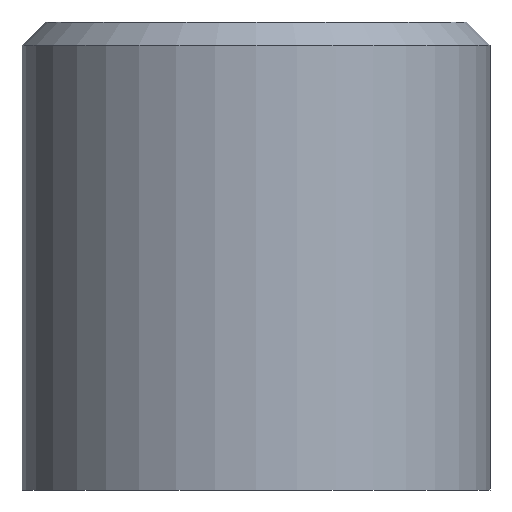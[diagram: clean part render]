
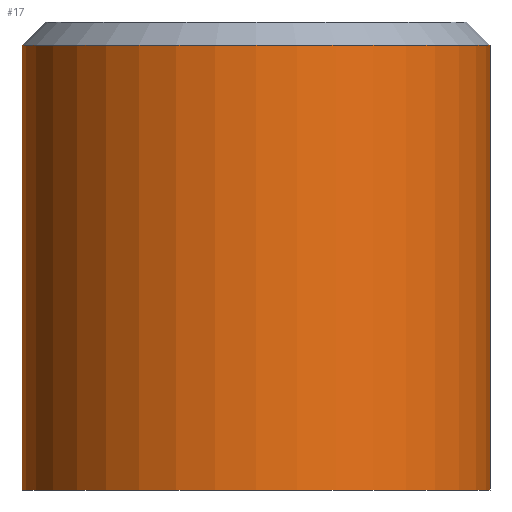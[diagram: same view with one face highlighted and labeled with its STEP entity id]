
A CAD part, front view. The second image highlights one B-rep face of the part: STEP entity #17.
In plain terms, the highlighted cylindrical face has radius 10 mm (diameter 20 mm), a full revolution.
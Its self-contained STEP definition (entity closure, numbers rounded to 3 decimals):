
#17 = ADVANCED_FACE('',(#18),#32,.T.);
#18 = FACE_BOUND('',#19,.F.);
#19 = EDGE_LOOP('',(#20,#50,#77,#78));
#20 = ORIENTED_EDGE('',*,*,#21,.T.);
#21 = EDGE_CURVE('',#22,#24,#26,.T.);
#22 = VERTEX_POINT('',#23);
#23 = CARTESIAN_POINT('',(10.,0.,0.));
#24 = VERTEX_POINT('',#25);
#25 = CARTESIAN_POINT('',(10.,0.,19.));
#26 = SEAM_CURVE('',#27,(#31,#43),.PCURVE_S1.);
#27 = LINE('',#28,#29);
#28 = CARTESIAN_POINT('',(10.,0.,0.));
#29 = VECTOR('',#30,1.);
#30 = DIRECTION('',(0.,0.,1.));
#31 = PCURVE('',#32,#37);
#32 = CYLINDRICAL_SURFACE('',#33,10.);
#33 = AXIS2_PLACEMENT_3D('',#34,#35,#36);
#34 = CARTESIAN_POINT('',(0.,0.,0.));
#35 = DIRECTION('',(-0.,-0.,-1.));
#36 = DIRECTION('',(1.,0.,0.));
#37 = DEFINITIONAL_REPRESENTATION('',(#38),#42);
#38 = LINE('',#39,#40);
#39 = CARTESIAN_POINT('',(-0.,0.));
#40 = VECTOR('',#41,1.);
#41 = DIRECTION('',(-0.,-1.));
#42 = ( GEOMETRIC_REPRESENTATION_CONTEXT(2) 
PARAMETRIC_REPRESENTATION_CONTEXT() REPRESENTATION_CONTEXT('2D SPACE',''
  ) );
#43 = PCURVE('',#32,#44);
#44 = DEFINITIONAL_REPRESENTATION('',(#45),#49);
#45 = LINE('',#46,#47);
#46 = CARTESIAN_POINT('',(-6.283,0.));
#47 = VECTOR('',#48,1.);
#48 = DIRECTION('',(-0.,-1.));
#49 = ( GEOMETRIC_REPRESENTATION_CONTEXT(2) 
PARAMETRIC_REPRESENTATION_CONTEXT() REPRESENTATION_CONTEXT('2D SPACE',''
  ) );
#50 = ORIENTED_EDGE('',*,*,#51,.T.);
#51 = EDGE_CURVE('',#24,#24,#52,.T.);
#52 = SURFACE_CURVE('',#53,(#58,#65),.PCURVE_S1.);
#53 = CIRCLE('',#54,10.);
#54 = AXIS2_PLACEMENT_3D('',#55,#56,#57);
#55 = CARTESIAN_POINT('',(0.,0.,19.));
#56 = DIRECTION('',(0.,0.,1.));
#57 = DIRECTION('',(1.,0.,-0.));
#58 = PCURVE('',#32,#59);
#59 = DEFINITIONAL_REPRESENTATION('',(#60),#64);
#60 = LINE('',#61,#62);
#61 = CARTESIAN_POINT('',(-0.,-19.));
#62 = VECTOR('',#63,1.);
#63 = DIRECTION('',(-1.,0.));
#64 = ( GEOMETRIC_REPRESENTATION_CONTEXT(2) 
PARAMETRIC_REPRESENTATION_CONTEXT() REPRESENTATION_CONTEXT('2D SPACE',''
  ) );
#65 = PCURVE('',#66,#71);
#66 = CONICAL_SURFACE('',#67,10.,0.785);
#67 = AXIS2_PLACEMENT_3D('',#68,#69,#70);
#68 = CARTESIAN_POINT('',(0.,0.,19.));
#69 = DIRECTION('',(-0.,-0.,-1.));
#70 = DIRECTION('',(1.,0.,0.));
#71 = DEFINITIONAL_REPRESENTATION('',(#72),#76);
#72 = LINE('',#73,#74);
#73 = CARTESIAN_POINT('',(-0.,-0.));
#74 = VECTOR('',#75,1.);
#75 = DIRECTION('',(-1.,-0.));
#76 = ( GEOMETRIC_REPRESENTATION_CONTEXT(2) 
PARAMETRIC_REPRESENTATION_CONTEXT() REPRESENTATION_CONTEXT('2D SPACE',''
  ) );
#77 = ORIENTED_EDGE('',*,*,#21,.F.);
#78 = ORIENTED_EDGE('',*,*,#79,.F.);
#79 = EDGE_CURVE('',#22,#22,#80,.T.);
#80 = SURFACE_CURVE('',#81,(#86,#93),.PCURVE_S1.);
#81 = CIRCLE('',#82,10.);
#82 = AXIS2_PLACEMENT_3D('',#83,#84,#85);
#83 = CARTESIAN_POINT('',(0.,0.,0.));
#84 = DIRECTION('',(0.,0.,1.));
#85 = DIRECTION('',(1.,0.,0.));
#86 = PCURVE('',#32,#87);
#87 = DEFINITIONAL_REPRESENTATION('',(#88),#92);
#88 = LINE('',#89,#90);
#89 = CARTESIAN_POINT('',(-0.,0.));
#90 = VECTOR('',#91,1.);
#91 = DIRECTION('',(-1.,0.));
#92 = ( GEOMETRIC_REPRESENTATION_CONTEXT(2) 
PARAMETRIC_REPRESENTATION_CONTEXT() REPRESENTATION_CONTEXT('2D SPACE',''
  ) );
#93 = PCURVE('',#94,#99);
#94 = PLANE('',#95);
#95 = AXIS2_PLACEMENT_3D('',#96,#97,#98);
#96 = CARTESIAN_POINT('',(0.,0.,0.));
#97 = DIRECTION('',(0.,0.,1.));
#98 = DIRECTION('',(1.,0.,-0.));
#99 = DEFINITIONAL_REPRESENTATION('',(#100),#104);
#100 = CIRCLE('',#101,10.);
#101 = AXIS2_PLACEMENT_2D('',#102,#103);
#102 = CARTESIAN_POINT('',(0.,0.));
#103 = DIRECTION('',(1.,0.));
#104 = ( GEOMETRIC_REPRESENTATION_CONTEXT(2) 
PARAMETRIC_REPRESENTATION_CONTEXT() REPRESENTATION_CONTEXT('2D SPACE',''
  ) );
